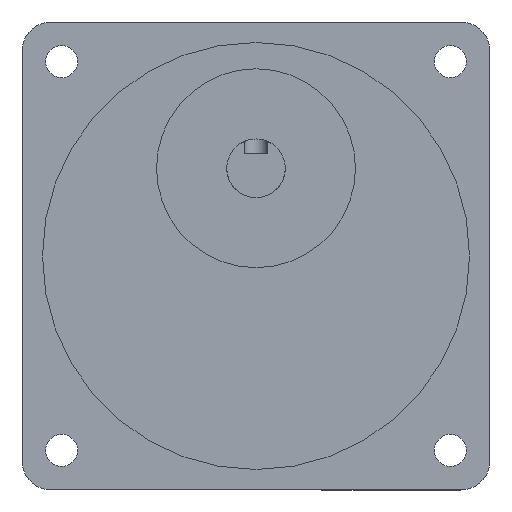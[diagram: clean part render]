
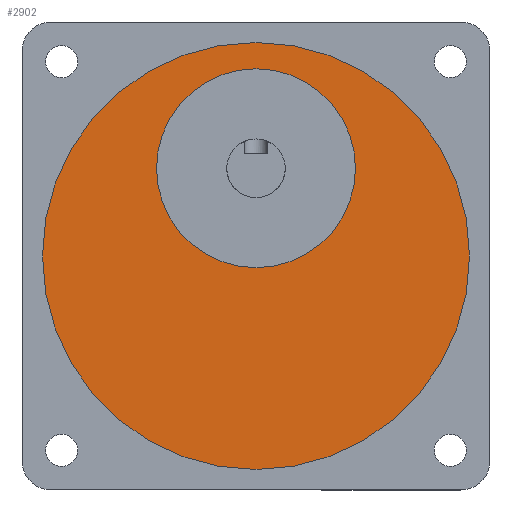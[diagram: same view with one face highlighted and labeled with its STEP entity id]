
A CAD part, front view. The second image highlights one B-rep face of the part: STEP entity #2902.
In plain terms, the highlighted planar face has unit normal (0, -1, 0).
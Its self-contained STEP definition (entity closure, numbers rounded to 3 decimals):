
#21 = ORIENTED_EDGE ( 'NONE', *, *, #1905, .F. ) ;
#170 = EDGE_CURVE ( 'NONE', #402, #440, #2937, .T. ) ;
#402 = VERTEX_POINT ( 'NONE', #3976 ) ;
#438 = CARTESIAN_POINT ( 'NONE',  ( 40., -44., 40. ) ) ;
#440 = VERTEX_POINT ( 'NONE', #3593 ) ;
#813 = EDGE_CURVE ( 'NONE', #3424, #2308, #2004, .T. ) ;
#826 = DIRECTION ( 'NONE',  ( 0., 0., -1. ) ) ;
#941 = DIRECTION ( 'NONE',  ( 0., -1., 0. ) ) ;
#960 = FACE_BOUND ( 'NONE', #1558, .T. ) ;
#1135 = CARTESIAN_POINT ( 'NONE',  ( 40., -44., 40. ) ) ;
#1148 = ORIENTED_EDGE ( 'NONE', *, *, #3547, .T. ) ;
#1201 = CARTESIAN_POINT ( 'NONE',  ( 40., -44., 40. ) ) ;
#1305 = DIRECTION ( 'NONE',  ( 0., -1., 0. ) ) ;
#1504 = CARTESIAN_POINT ( 'NONE',  ( 40., -44., 72. ) ) ;
#1547 = AXIS2_PLACEMENT_3D ( 'NONE', #3557, #1305, #4289 ) ;
#1558 = EDGE_LOOP ( 'NONE', ( #21, #2922 ) ) ;
#1591 = PLANE ( 'NONE',  #3620 ) ;
#1802 = CIRCLE ( 'NONE', #1842, 36.5 ) ;
#1842 = AXIS2_PLACEMENT_3D ( 'NONE', #438, #1969, #4564 ) ;
#1905 = EDGE_CURVE ( 'NONE', #2308, #3424, #4320, .T. ) ;
#1938 = DIRECTION ( 'NONE',  ( 0., 0., -1. ) ) ;
#1969 = DIRECTION ( 'NONE',  ( 0., -1., 0. ) ) ;
#2004 = CIRCLE ( 'NONE', #1547, 17. ) ;
#2308 = VERTEX_POINT ( 'NONE', #1504 ) ;
#2701 = DIRECTION ( 'NONE',  ( 0., -1., 0. ) ) ;
#2742 = FACE_OUTER_BOUND ( 'NONE', #4501, .T. ) ;
#2821 = CARTESIAN_POINT ( 'NONE',  ( 40., -44., 55. ) ) ;
#2902 = ADVANCED_FACE ( 'NONE', ( #960, #2742 ), #1591, .T. ) ;
#2922 = ORIENTED_EDGE ( 'NONE', *, *, #813, .F. ) ;
#2937 = CIRCLE ( 'NONE', #3332, 36.5 ) ;
#3332 = AXIS2_PLACEMENT_3D ( 'NONE', #1201, #2701, #826 ) ;
#3423 = DIRECTION ( 'NONE',  ( 0., -1., 0. ) ) ;
#3424 = VERTEX_POINT ( 'NONE', #4517 ) ;
#3547 = EDGE_CURVE ( 'NONE', #440, #402, #1802, .T. ) ;
#3557 = CARTESIAN_POINT ( 'NONE',  ( 40., -44., 55. ) ) ;
#3593 = CARTESIAN_POINT ( 'NONE',  ( 40., -44., 76.5 ) ) ;
#3620 = AXIS2_PLACEMENT_3D ( 'NONE', #1135, #3423, #1938 ) ;
#3976 = CARTESIAN_POINT ( 'NONE',  ( 40., -44., 3.5 ) ) ;
#4010 = ORIENTED_EDGE ( 'NONE', *, *, #170, .T. ) ;
#4091 = AXIS2_PLACEMENT_3D ( 'NONE', #2821, #941, #4276 ) ;
#4276 = DIRECTION ( 'NONE',  ( 0., 0., -1. ) ) ;
#4289 = DIRECTION ( 'NONE',  ( 0., 0., -1. ) ) ;
#4320 = CIRCLE ( 'NONE', #4091, 17. ) ;
#4501 = EDGE_LOOP ( 'NONE', ( #4010, #1148 ) ) ;
#4517 = CARTESIAN_POINT ( 'NONE',  ( 40., -44., 38. ) ) ;
#4564 = DIRECTION ( 'NONE',  ( 0., 0., -1. ) ) ;
